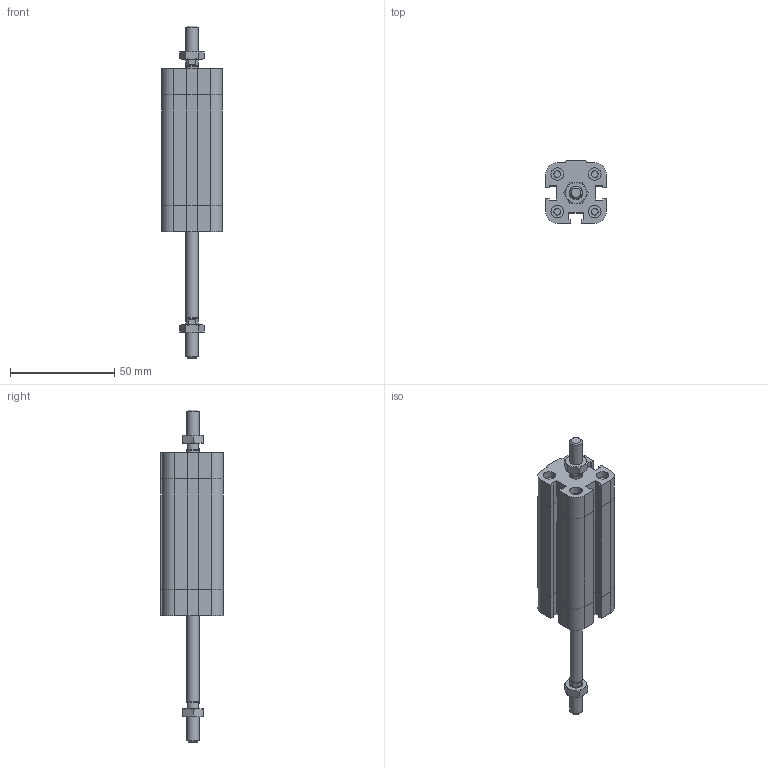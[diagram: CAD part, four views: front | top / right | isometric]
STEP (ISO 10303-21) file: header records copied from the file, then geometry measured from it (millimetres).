
FILE_DESCRIPTION((''),'2;1');
FILE_NAME('I:\Area Tecnica\Disegni\VARIE-3D\Componenti\EUROPE\15##_###_####_04_#\1581_12_0040_04_1.iam.stp','2009-04-20T14:49:20',(''),(''),'Autodesk Inventor 2009','Autodesk Inventor 2009','');
FILE_SCHEMA(('AUTOMOTIVE_DESIGN { 1 0 10303 214 1 1 1 1 }'));
Length unit declared in the file: millimetre
Products named in the file (4): 1581_12_0040_04_1; 1581_12_0040_03_1_C; 1561_12_0040_04_1_S; DBM6
Assembly tree (4 placements, depth 2):
  1581_12_0040_04_1
    1581_12_0040_03_1_C
    1561_12_0040_04_1_S
    DBM6  x2
Bounding box: 29 x 30 x 159 mm (x, y, z)
Volume: 57768.9 mm3; surface area: 20003.7 mm2
Topology: 4 solids, 4 shells, 224 faces, 491 edges, 293 vertices
Faces by surface type: plane 131, cone 35, bspline 33, cylinder 25
Full cylindrical faces by diameter (mm): 3.242 x4, 5 x1, 5.8 x2, 6 x6
Entity records: 5503 total; most frequent: CARTESIAN_POINT 1232, DIRECTION 814, ORIENTED_EDGE 784, EDGE_CURVE 392, AXIS2_PLACEMENT_3D 276, VECTOR 262, LINE 262, EDGE_LOOP 258
